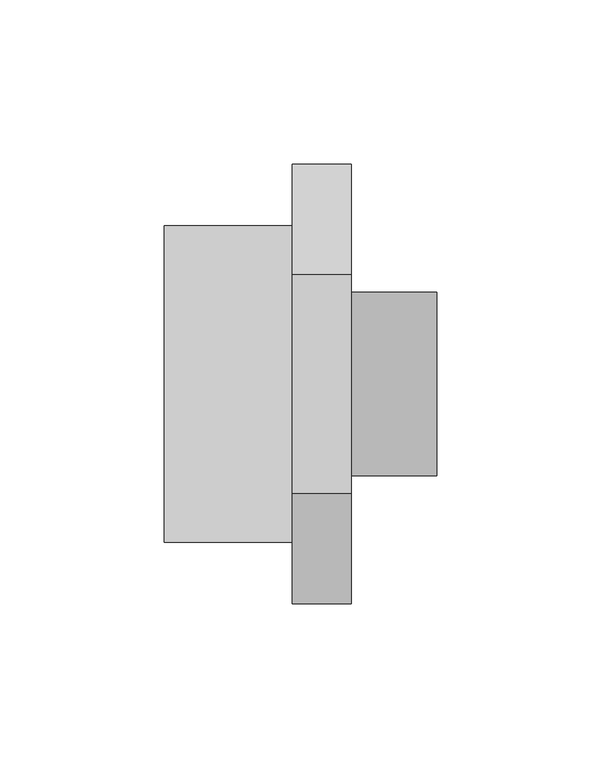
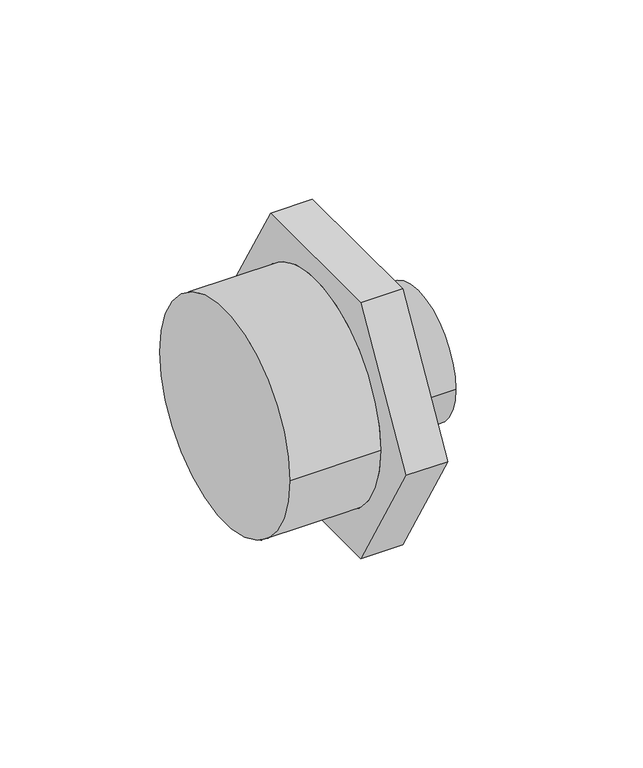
"""IFC4 building model written with IfcOpenShell, lengths in millimetres: pipe fitting geometry, 01011197 : Machones doble rosca reducidas."""

from ifc_helpers import new_model, si_unit, frame, origin, place, context, project, spatial, circle_curve, source, transform, mapped, element, save
from ifc_brep_helpers import plane_surface, cylinder_surface, advanced_brep


def pipe_fitting_e492f634(model_context):
    return source(origin(), model_context, "Body", "AdvancedBrep", [
        advanced_brep(
        [(57.0, -33.4863156, 58.0), (57.0, -66.9726312, 0.0), (57.0, -33.4863156, -58.0), (57.0, 33.4863156, -58.0), (57.0, 66.9726312, 0.0), (57.0, 33.4863156, 58.0), (57.0, -27.94, 0.0), (57.0, 27.94, 0.0), (39.0, -33.4863156, 58.0), (39.0, 33.4863156, 58.0), (39.0, 66.9726312, 0.0), (39.0, 33.4863156, -58.0), (39.0, -33.4863156, -58.0), (39.0, -66.9726312, 0.0), (39.0, 48.26, 0.0), (39.0, -48.26, 0.0), (83.0, -27.94, 0.0), (83.0, 27.94, 0.0), (0.0, 48.26, 0.0), (0.0, -48.26, 0.0)],
        [
            (0, 1),
            (1, 2),
            (2, 3),
            (3, 4),
            (4, 5),
            (5, 0),
            (6, 7, circle_curve(frame((57.0, 0.0, 0.0), z_axis=(-1.0, 0.0, 0.0), x_axis=(0.0, 1.0, 0.0)), 27.94)),
            (7, 6, circle_curve(frame((57.0, 0.0, 0.0), z_axis=(-1.0, 0.0, 0.0), x_axis=(0.0, 1.0, 0.0)), 27.94)),
            (8, 9),
            (9, 10),
            (10, 11),
            (11, 12),
            (12, 13),
            (13, 8),
            (14, 15, circle_curve(frame((39.0, 0.0, 0.0), z_axis=(1.0, 0.0, 0.0), x_axis=(0.0, -1.0, 0.0)), 48.26)),
            (15, 14, circle_curve(frame((39.0, 0.0, 0.0), z_axis=(1.0, 0.0, 0.0), x_axis=(0.0, -1.0, 0.0)), 48.26)),
            (0, 8),
            (13, 1),
            (12, 2),
            (11, 3),
            (10, 4),
            (9, 5),
            (16, 17, circle_curve(frame((83.0, 0.0, 0.0), z_axis=(1.0, 0.0, 0.0), x_axis=(0.0, 1.0, 0.0)), 27.94)),
            (17, 16, circle_curve(frame((83.0, 0.0, 0.0), z_axis=(1.0, 0.0, 0.0), x_axis=(0.0, 1.0, 0.0)), 27.94)),
            (17, 7),
            (6, 16),
            (18, 19, circle_curve(frame((0.0, 0.0, 0.0), z_axis=(-1.0, 0.0, 0.0), x_axis=(0.0, -1.0, 0.0)), 48.26)),
            (19, 18, circle_curve(frame((0.0, 0.0, 0.0), z_axis=(-1.0, 0.0, 0.0), x_axis=(0.0, -1.0, 0.0)), 48.26)),
            (19, 15),
            (14, 18),
        ],
        [
            plane_surface(frame((57.0, -33.4863156, 58.0), z_axis=(1.0, 0.0, 0.0), x_axis=(0.0, -0.500000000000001, -0.866025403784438))),
            plane_surface(frame((39.0, -33.4863156, 58.0), z_axis=(-1.0, 0.0, 0.0), x_axis=(0.0, 0.500000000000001, 0.866025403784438))),
            plane_surface(frame((57.0, -33.4863156, 58.0), z_axis=(0.0, -0.866025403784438, 0.500000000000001), x_axis=(-1.0, 0.0, 0.0))),
            plane_surface(frame((57.0, -66.9726312, 0.0), z_axis=(0.0, -0.866025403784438, -0.5000000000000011), x_axis=(-1.0, 0.0, 0.0))),
            plane_surface(frame((57.0, -33.4863156, -58.0), z_axis=(0.0, 0.0, -1.0), x_axis=(-1.0, 0.0, 0.0))),
            plane_surface(frame((57.0, 33.4863156, -58.0), z_axis=(0.0, 0.8660254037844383, -0.5000000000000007), x_axis=(-1.0, 0.0, 0.0))),
            plane_surface(frame((57.0, 66.9726312, 0.0), z_axis=(0.0, 0.8660254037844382, 0.500000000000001), x_axis=(-1.0, 0.0, 0.0))),
            plane_surface(frame((57.0, 33.4863156, 58.0), z_axis=(0.0, 0.0, 1.0), x_axis=(-1.0, 0.0, 0.0))),
            plane_surface(frame((83.0, 0.0, 0.0), z_axis=(1.0, 0.0, 0.0), x_axis=(0.0, 0.0, 1.0))),
            cylinder_surface(frame((57.0, 0.0, 0.0), z_axis=(-1.0, 0.0, 0.0), x_axis=(0.0, 1.0, 0.0)), 27.94),
            plane_surface(frame((0.0, 0.0, 0.0), z_axis=(-1.0, 0.0, 0.0), x_axis=(0.0, 0.0, 1.0))),
            cylinder_surface(frame((39.0, 0.0, 0.0), z_axis=(1.0, 0.0, 0.0), x_axis=(0.0, -1.0, 0.0)), 48.26),
        ],
        [
            (0, [[1, 2, 3, 4, 5, 6], [7, 8]]),
            (1, [[9, 10, 11, 12, 13, 14], [15, 16]]),
            (2, [[-1, 17, -14, 18]]),
            (3, [[-2, -18, -13, 19]]),
            (4, [[-3, -19, -12, 20]]),
            (5, [[-4, -20, -11, 21]]),
            (6, [[-5, -21, -10, 22]]),
            (7, [[-6, -22, -9, -17]]),
            (8, [[23, 24]]),
            (9, [[-24, 25, -7, 26]]),
            (9, [[-23, -26, -8, -25]]),
            (10, [[27, 28]]),
            (11, [[-28, 29, -15, 30]]),
            (11, [[-27, -30, -16, -29]]),
        ],
    ),
    ])


if __name__ == "__main__":
    model = new_model("IFC4")
    model_context = context("Model", 3, world=origin())
    ifc_project = project(units=[si_unit("LENGTHUNIT", "METRE", prefix="MILLI")], contexts=[model_context])
    site = spatial("IfcSite", under=ifc_project)
    building = spatial("IfcBuilding", under=site)
    placement = place(None, origin())
    pipe_fitting_shape = pipe_fitting_e492f634(model_context)
    element("IfcPipeFitting", 1, ObjectType="01011197 : Machones doble rosca reducidas", at=placement, inside=building, context=model_context, shape_type="MappedRepresentation", body=[
        mapped(pipe_fitting_shape, transform((0.0, 0.0, 0.0), x_axis=(1.0, 0.0, 0.0), y_axis=(0.0, 1.0, 0.0), z_axis=(0.0, 0.0, 1.0))),
    ])
    save(model, "model.ifc")
